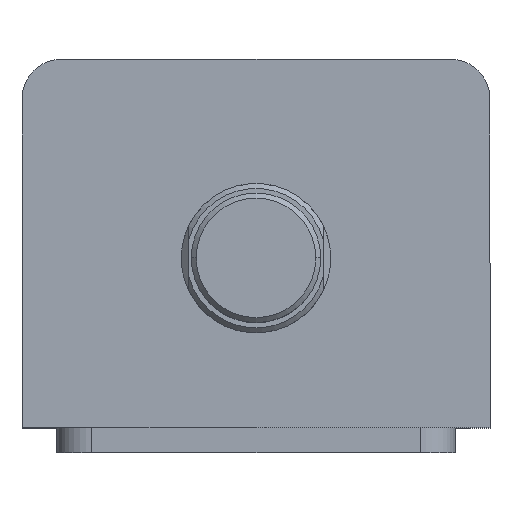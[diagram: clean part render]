
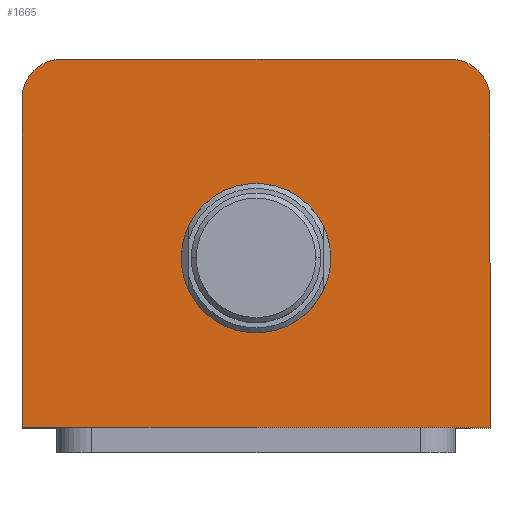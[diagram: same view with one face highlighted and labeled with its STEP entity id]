
A CAD part, top view. The second image highlights one B-rep face of the part: STEP entity #1665.
In plain terms, the highlighted planar face has unit normal (0, 0, 1).
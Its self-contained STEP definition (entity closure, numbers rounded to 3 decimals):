
#57 = CARTESIAN_POINT ( 'NONE',  ( 47., -37., 80. ) ) ;
#95 = CARTESIAN_POINT ( 'NONE',  ( -47., -37., 80. ) ) ;
#99 = CARTESIAN_POINT ( 'NONE',  ( 47., 29., 80. ) ) ;
#100 = CARTESIAN_POINT ( 'NONE',  ( -47., 29., 80. ) ) ;
#113 = CARTESIAN_POINT ( 'NONE',  ( -47., 37., 80. ) ) ;
#114 = DIRECTION ( 'NONE',  ( -1., 0., 0. ) ) ;
#172 = CARTESIAN_POINT ( 'NONE',  ( 47., 37., 80. ) ) ;
#173 = DIRECTION ( 'NONE',  ( 0., 1., 0. ) ) ;
#203 = CARTESIAN_POINT ( 'NONE',  ( 15., -3., 80. ) ) ;
#208 = CARTESIAN_POINT ( 'NONE',  ( 39., 37., 80. ) ) ;
#210 = CARTESIAN_POINT ( 'NONE',  ( -39., 37., 80. ) ) ;
#212 = CARTESIAN_POINT ( 'NONE',  ( -15., -3., 80. ) ) ;
#547 = DIRECTION ( 'NONE',  ( 0., -1., 0. ) ) ;
#571 = DIRECTION ( 'NONE',  ( 0., 0., 1. ) ) ;
#574 = CARTESIAN_POINT ( 'NONE',  ( 0., -3., 80. ) ) ;
#575 = DIRECTION ( 'NONE',  ( 1., 0., 0. ) ) ;
#596 = CARTESIAN_POINT ( 'NONE',  ( 39., 29., 80. ) ) ;
#597 = CARTESIAN_POINT ( 'NONE',  ( -47., 37., 80. ) ) ;
#617 = DIRECTION ( 'NONE',  ( 1., 0., 0. ) ) ;
#622 = CARTESIAN_POINT ( 'NONE',  ( -39., 29., 80. ) ) ;
#624 = DIRECTION ( 'NONE',  ( 0., 0., 1. ) ) ;
#625 = DIRECTION ( 'NONE',  ( 1., 0., 0. ) ) ;
#626 = DIRECTION ( 'NONE',  ( 1., 0., 0. ) ) ;
#632 = DIRECTION ( 'NONE',  ( 0., 0., 1. ) ) ;
#664 = CARTESIAN_POINT ( 'NONE',  ( -47., -37., 80. ) ) ;
#677 = VECTOR ( 'NONE', #114, 1000. ) ;
#679 = LINE ( 'NONE', #113, #677 ) ;
#706 = LINE ( 'NONE', #172, #709 ) ;
#709 = VECTOR ( 'NONE', #173, 1000. ) ;
#992 = AXIS2_PLACEMENT_3D ( 'NONE', #622, #624, #625 ) ;
#997 = AXIS2_PLACEMENT_3D ( 'NONE', #574, #571, #575 ) ;
#1013 = AXIS2_PLACEMENT_3D ( 'NONE', #2781, #2794, #2706 ) ;
#1068 = AXIS2_PLACEMENT_3D ( 'NONE', #2104, #2103, #2102 ) ;
#1201 = EDGE_CURVE ( 'NONE', #1950, #2525, #1621, .T. ) ;
#1211 = EDGE_CURVE ( 'NONE', #2527, #1951, #1609, .T. ) ;
#1217 = EDGE_CURVE ( 'NONE', #1946, #1897, #1601, .T. ) ;
#1225 = EDGE_CURVE ( 'NONE', #1951, #1946, #1585, .T. ) ;
#1234 = EDGE_CURVE ( 'NONE', #2518, #2529, #1564, .T. ) ;
#1405 = CIRCLE ( 'NONE', #1068, 15. ) ;
#1509 = FACE_OUTER_BOUND ( 'NONE', #1728, .T. ) ;
#1517 = FACE_BOUND ( 'NONE', #1727, .T. ) ;
#1564 = CIRCLE ( 'NONE', #997, 15. ) ;
#1581 = VECTOR ( 'NONE', #547, 1000. ) ;
#1585 = LINE ( 'NONE', #597, #1581 ) ;
#1598 = VECTOR ( 'NONE', #617, 1000. ) ;
#1601 = LINE ( 'NONE', #664, #1598 ) ;
#1609 = CIRCLE ( 'NONE', #992, 8. ) ;
#1621 = CIRCLE ( 'NONE', #1857, 8. ) ;
#1665 = ADVANCED_FACE ( 'NONE', ( #1517, #1509 ), #2798, .T. ) ;
#1727 = EDGE_LOOP ( 'NONE', ( #2571, #2570 ) ) ;
#1728 = EDGE_LOOP ( 'NONE', ( #2577, #2576, #2575, #2574, #2581, #2580 ) ) ;
#1755 = EDGE_CURVE ( 'NONE', #2529, #2518, #1405, .T. ) ;
#1857 = AXIS2_PLACEMENT_3D ( 'NONE', #596, #632, #626 ) ;
#1897 = VERTEX_POINT ( 'NONE', #57 ) ;
#1946 = VERTEX_POINT ( 'NONE', #95 ) ;
#1950 = VERTEX_POINT ( 'NONE', #99 ) ;
#1951 = VERTEX_POINT ( 'NONE', #100 ) ;
#1989 = EDGE_CURVE ( 'NONE', #2525, #2527, #679, .T. ) ;
#2016 = EDGE_CURVE ( 'NONE', #1897, #1950, #706, .T. ) ;
#2102 = DIRECTION ( 'NONE',  ( 1., 0., 0. ) ) ;
#2103 = DIRECTION ( 'NONE',  ( 0., 0., 1. ) ) ;
#2104 = CARTESIAN_POINT ( 'NONE',  ( 0., -3., 80. ) ) ;
#2518 = VERTEX_POINT ( 'NONE', #203 ) ;
#2525 = VERTEX_POINT ( 'NONE', #208 ) ;
#2527 = VERTEX_POINT ( 'NONE', #210 ) ;
#2529 = VERTEX_POINT ( 'NONE', #212 ) ;
#2570 = ORIENTED_EDGE ( 'NONE', *, *, #1755, .F. ) ;
#2571 = ORIENTED_EDGE ( 'NONE', *, *, #1234, .F. ) ;
#2574 = ORIENTED_EDGE ( 'NONE', *, *, #1217, .T. ) ;
#2575 = ORIENTED_EDGE ( 'NONE', *, *, #1225, .T. ) ;
#2576 = ORIENTED_EDGE ( 'NONE', *, *, #1211, .T. ) ;
#2577 = ORIENTED_EDGE ( 'NONE', *, *, #1989, .T. ) ;
#2580 = ORIENTED_EDGE ( 'NONE', *, *, #1201, .T. ) ;
#2581 = ORIENTED_EDGE ( 'NONE', *, *, #2016, .T. ) ;
#2706 = DIRECTION ( 'NONE',  ( 1., 0., 0. ) ) ;
#2781 = CARTESIAN_POINT ( 'NONE',  ( 0., 0., 80. ) ) ;
#2794 = DIRECTION ( 'NONE',  ( 0., 0., 1. ) ) ;
#2798 = PLANE ( 'NONE',  #1013 ) ;
